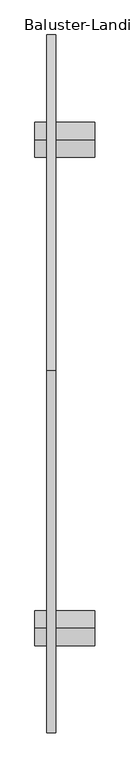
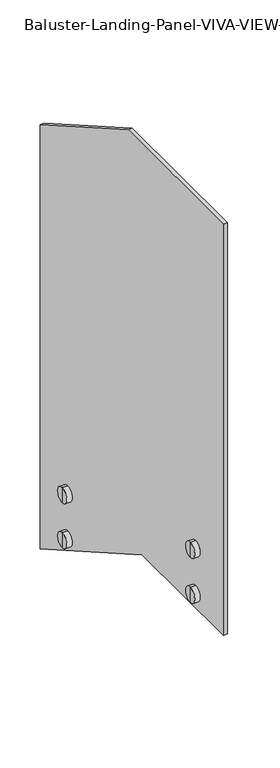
"""IFC4 building model written with IfcOpenShell, lengths in millimetres: railing geometry, Baluster-Landing-Panel-VIVA-VIEW-Lower : Standard_Glass."""

from ifc_helpers import new_model, si_unit, frame, origin, place, context, project, spatial, polyline, circle_curve, outline, extrude, source, transform, mapped, element, save
from ifc_brep_helpers import plane_surface, cylinder_surface, advanced_brep


def baluster_landing_panel_viva_view_lower_standard_glass_baf17fb6(model_context):
    return source(origin(), model_context, "Body", "SolidModel", [
        advanced_brep(
        [(15.875, -147.3891207, -546.0690625), (15.875, -147.3891207, -520.6690625), (15.875, -147.3891207, -495.2690625), (33.3375, -147.3891207, -546.0690625), (33.3375, -147.3891207, -495.2690625), (33.3375, -147.3891207, -526.3840625), (33.3375, -147.3891207, -514.9540625), (46.0375, -147.3891207, -526.3840625), (46.0375, -147.3891207, -514.9540625), (46.0375, -147.3891207, -546.0690625), (46.0375, -147.3891207, -495.2690625), (103.187353, -147.3891207, -546.0690625), (103.187353, -147.3891207, -495.2690625), (103.187353, -147.3891207, -520.6690625)],
        [
            (0, 1),
            (1, 2),
            (2, 0, circle_curve(frame((15.875, -147.3891207, -520.6690625), z_axis=(-1.0, 0.0, 0.0), x_axis=(0.0, 0.0, 1.0)), 25.4)),
            (0, 2, circle_curve(frame((15.875, -147.3891207, -520.6690625), z_axis=(-1.0, 0.0, 0.0), x_axis=(0.0, 0.0, 1.0)), 25.4)),
            (3, 0),
            (2, 4),
            (4, 3, circle_curve(frame((33.3375, -147.3891207, -520.6690625), z_axis=(-1.0, 0.0, 0.0), x_axis=(0.0, 0.0, 1.0)), 25.4)),
            (3, 4, circle_curve(frame((33.3375, -147.3891207, -520.6690625), z_axis=(-1.0, 0.0, 0.0), x_axis=(0.0, 0.0, 1.0)), 25.4)),
            (5, 3),
            (4, 6),
            (6, 5, circle_curve(frame((33.3375, -147.3891207, -520.6690625), z_axis=(-1.0, 0.0, 0.0), x_axis=(0.0, 0.0, 1.0)), 5.715)),
            (5, 6, circle_curve(frame((33.3375, -147.3891207, -520.6690625), z_axis=(-1.0, 0.0, 0.0), x_axis=(0.0, 0.0, 1.0)), 5.715)),
            (7, 5),
            (6, 8),
            (8, 7, circle_curve(frame((46.0375, -147.3891207, -520.6690625), z_axis=(-1.0, 0.0, 0.0), x_axis=(0.0, 0.0, 1.0)), 5.715)),
            (7, 8, circle_curve(frame((46.0375, -147.3891207, -520.6690625), z_axis=(-1.0, 0.0, 0.0), x_axis=(0.0, 0.0, 1.0)), 5.715)),
            (9, 7),
            (8, 10),
            (10, 9, circle_curve(frame((46.0375, -147.3891207, -520.6690625), z_axis=(-1.0, 0.0, 0.0), x_axis=(0.0, 0.0, 1.0)), 25.4)),
            (9, 10, circle_curve(frame((46.0375, -147.3891207, -520.6690625), z_axis=(-1.0, 0.0, 0.0), x_axis=(0.0, 0.0, 1.0)), 25.4)),
            (11, 9),
            (10, 12),
            (12, 11, circle_curve(frame((103.187353, -147.3891207, -520.6690625), z_axis=(-1.0, 0.0, 0.0), x_axis=(0.0, 0.0, 1.0)), 25.4)),
            (11, 12, circle_curve(frame((103.187353, -147.3891207, -520.6690625), z_axis=(-1.0, 0.0, 0.0), x_axis=(0.0, 0.0, 1.0)), 25.4)),
            (13, 11),
            (12, 13),
        ],
        [
            plane_surface(frame((15.875, -147.3891207, -520.6690625), z_axis=(-1.0, 0.0, 0.0), x_axis=(0.0, 0.0, 1.0))),
            cylinder_surface(frame((-52.387647, -147.3891207, -520.6690625), z_axis=(1.0, 0.0, 0.0), x_axis=(0.0, 0.0, 1.0)), 25.4),
            plane_surface(frame((33.3375, -147.3891207, -520.6690625), z_axis=(1.0, 0.0, 0.0), x_axis=(0.0, 0.0, 1.0))),
            cylinder_surface(frame((-52.387647, -147.3891207, -520.6690625), z_axis=(1.0, 0.0, 0.0), x_axis=(0.0, 0.0, 1.0)), 5.715),
            plane_surface(frame((46.0375, -147.3891207, -520.6690625), z_axis=(-1.0, 0.0, 0.0), x_axis=(0.0, 0.0, 1.0))),
            plane_surface(frame((103.187353, -147.3891207, -520.6690625), z_axis=(1.0, 0.0, 0.0), x_axis=(0.0, 0.0, 1.0))),
        ],
        [
            (0, [[1, 2, 3]]),
            (0, [[-2, -1, 4]]),
            (1, [[5, -3, 6, 7]]),
            (1, [[-6, -4, -5, 8]]),
            (2, [[9, -7, 10, 11]]),
            (2, [[-10, -8, -9, 12]]),
            (3, [[13, -11, 14, 15]]),
            (3, [[-14, -12, -13, 16]]),
            (4, [[17, -15, 18, 19]]),
            (4, [[-18, -16, -17, 20]]),
            (1, [[21, -19, 22, 23]]),
            (1, [[-22, -20, -21, 24]]),
            (5, [[25, -23, 26]]),
            (5, [[-26, -24, -25]]),
        ],
    ),
        advanced_brep(
        [(33.3375, -147.3891207, -373.9840625), (33.3375, -147.3891207, -393.6690625), (33.3375, -147.3891207, -342.8690625), (33.3375, -147.3891207, -362.5540625), (46.0375, -147.3891207, -373.9840625), (46.0375, -147.3891207, -362.5540625), (46.0375, -147.3891207, -393.6690625), (46.0375, -147.3891207, -342.8690625), (103.187353, -147.3891207, -393.6690625), (103.187353, -147.3891207, -342.8690625), (103.187353, -147.3891207, -368.2690625), (15.875, -147.3891207, -393.6690625), (15.875, -147.3891207, -368.2690625), (15.875, -147.3891207, -342.8690625)],
        [
            (0, 1),
            (1, 2, circle_curve(frame((33.3375, -147.3891207, -368.2690625), z_axis=(1.0, 0.0, 0.0), x_axis=(0.0, 0.0, 1.0)), 25.4)),
            (2, 3),
            (3, 0, circle_curve(frame((33.3375, -147.3891207, -368.2690625), z_axis=(-1.0, 0.0, 0.0), x_axis=(0.0, 0.0, 1.0)), 5.715)),
            (2, 1, circle_curve(frame((33.3375, -147.3891207, -368.2690625), z_axis=(1.0, 0.0, 0.0), x_axis=(0.0, 0.0, 1.0)), 25.4)),
            (0, 3, circle_curve(frame((33.3375, -147.3891207, -368.2690625), z_axis=(-1.0, 0.0, 0.0), x_axis=(0.0, 0.0, 1.0)), 5.715)),
            (4, 0),
            (3, 5),
            (5, 4, circle_curve(frame((46.0375, -147.3891207, -368.2690625), z_axis=(-1.0, 0.0, 0.0), x_axis=(0.0, 0.0, 1.0)), 5.715)),
            (4, 5, circle_curve(frame((46.0375, -147.3891207, -368.2690625), z_axis=(-1.0, 0.0, 0.0), x_axis=(0.0, 0.0, 1.0)), 5.715)),
            (6, 4),
            (5, 7),
            (7, 6, circle_curve(frame((46.0375, -147.3891207, -368.2690625), z_axis=(-1.0, 0.0, 0.0), x_axis=(0.0, 0.0, 1.0)), 25.4)),
            (6, 7, circle_curve(frame((46.0375, -147.3891207, -368.2690625), z_axis=(-1.0, 0.0, 0.0), x_axis=(0.0, 0.0, 1.0)), 25.4)),
            (8, 6),
            (7, 9),
            (9, 8, circle_curve(frame((103.187353, -147.3891207, -368.2690625), z_axis=(-1.0, 0.0, 0.0), x_axis=(0.0, 0.0, 1.0)), 25.4)),
            (8, 9, circle_curve(frame((103.187353, -147.3891207, -368.2690625), z_axis=(-1.0, 0.0, 0.0), x_axis=(0.0, 0.0, 1.0)), 25.4)),
            (10, 8),
            (9, 10),
            (11, 12),
            (12, 13),
            (13, 11, circle_curve(frame((15.875, -147.3891207, -368.2690625), z_axis=(-1.0, 0.0, 0.0), x_axis=(0.0, 0.0, 1.0)), 25.4)),
            (11, 13, circle_curve(frame((15.875, -147.3891207, -368.2690625), z_axis=(-1.0, 0.0, 0.0), x_axis=(0.0, 0.0, 1.0)), 25.4)),
            (1, 11),
            (13, 2),
        ],
        [
            plane_surface(frame((33.3375, -147.3891207, -368.2690625), z_axis=(1.0, 0.0, 0.0), x_axis=(0.0, 0.0, 1.0))),
            cylinder_surface(frame((-52.387647, -147.3891207, -368.2690625), z_axis=(1.0, 0.0, 0.0), x_axis=(0.0, 0.0, 1.0)), 5.715),
            plane_surface(frame((46.0375, -147.3891207, -368.2690625), z_axis=(-1.0, 0.0, 0.0), x_axis=(0.0, 0.0, 1.0))),
            cylinder_surface(frame((-52.387647, -147.3891207, -368.2690625), z_axis=(1.0, 0.0, 0.0), x_axis=(0.0, 0.0, 1.0)), 25.4),
            plane_surface(frame((103.187353, -147.3891207, -368.2690625), z_axis=(1.0, 0.0, 0.0), x_axis=(0.0, 0.0, 1.0))),
            plane_surface(frame((15.875, -147.3891207, -368.2690625), z_axis=(-1.0, 0.0, 0.0), x_axis=(0.0, 0.0, 1.0))),
        ],
        [
            (0, [[1, 2, 3, 4]]),
            (0, [[-3, 5, -1, 6]]),
            (1, [[7, -4, 8, 9]]),
            (1, [[-8, -6, -7, 10]]),
            (2, [[11, -9, 12, 13]]),
            (2, [[-12, -10, -11, 14]]),
            (3, [[15, -13, 16, 17]]),
            (3, [[-16, -14, -15, 18]]),
            (4, [[19, -17, 20]]),
            (4, [[-20, -18, -19]]),
            (5, [[21, 22, 23]]),
            (5, [[-22, -21, 24]]),
            (3, [[25, -23, 26, -2]]),
            (3, [[-26, -24, -25, -5]]),
        ],
    ),
        advanced_brep(
        [(15.875, -858.1688714, -300.2438244), (15.875, -858.1688714, -249.4438244), (15.875, -858.1688714, -274.8438244), (33.3375, -858.1688714, -300.2438244), (33.3375, -858.1688714, -249.4438244), (33.3375, -858.1688714, -280.5588244), (33.3375, -858.1688714, -269.1288244), (46.0375, -858.1688714, -280.5588244), (46.0375, -858.1688714, -269.1288244), (46.0375, -858.1688714, -300.2438244), (46.0375, -858.1688714, -249.4438244), (103.187353, -858.1688714, -300.2438244), (103.187353, -858.1688714, -249.4438244), (103.187353, -858.1688714, -274.8438244)],
        [
            (0, 1, circle_curve(frame((15.875, -858.1688714, -274.8438244), z_axis=(-1.0, 0.0, 0.0), x_axis=(0.0, 0.0, 1.0)), 25.4)),
            (1, 2),
            (2, 0),
            (1, 0, circle_curve(frame((15.875, -858.1688714, -274.8438244), z_axis=(-1.0, 0.0, 0.0), x_axis=(0.0, 0.0, 1.0)), 25.4)),
            (3, 4, circle_curve(frame((33.3375, -858.1688714, -274.8438244), z_axis=(-1.0, 0.0, 0.0), x_axis=(0.0, 0.0, 1.0)), 25.4)),
            (4, 1),
            (0, 3),
            (4, 3, circle_curve(frame((33.3375, -858.1688714, -274.8438244), z_axis=(-1.0, 0.0, 0.0), x_axis=(0.0, 0.0, 1.0)), 25.4)),
            (5, 6, circle_curve(frame((33.3375, -858.1688714, -274.8438244), z_axis=(-1.0, 0.0, 0.0), x_axis=(0.0, 0.0, 1.0)), 5.715)),
            (6, 4),
            (3, 5),
            (6, 5, circle_curve(frame((33.3375, -858.1688714, -274.8438244), z_axis=(-1.0, 0.0, 0.0), x_axis=(0.0, 0.0, 1.0)), 5.715)),
            (7, 8, circle_curve(frame((46.0375, -858.1688714, -274.8438244), z_axis=(-1.0, 0.0, 0.0), x_axis=(0.0, 0.0, 1.0)), 5.715)),
            (8, 6),
            (5, 7),
            (8, 7, circle_curve(frame((46.0375, -858.1688714, -274.8438244), z_axis=(-1.0, 0.0, 0.0), x_axis=(0.0, 0.0, 1.0)), 5.715)),
            (9, 10, circle_curve(frame((46.0375, -858.1688714, -274.8438244), z_axis=(-1.0, 0.0, 0.0), x_axis=(0.0, 0.0, 1.0)), 25.4)),
            (10, 8),
            (7, 9),
            (10, 9, circle_curve(frame((46.0375, -858.1688714, -274.8438244), z_axis=(-1.0, 0.0, 0.0), x_axis=(0.0, 0.0, 1.0)), 25.4)),
            (11, 12, circle_curve(frame((103.187353, -858.1688714, -274.8438244), z_axis=(-1.0, 0.0, 0.0), x_axis=(0.0, 0.0, 1.0)), 25.4)),
            (12, 10),
            (9, 11),
            (12, 11, circle_curve(frame((103.187353, -858.1688714, -274.8438244), z_axis=(-1.0, 0.0, 0.0), x_axis=(0.0, 0.0, 1.0)), 25.4)),
            (13, 12),
            (11, 13),
        ],
        [
            plane_surface(frame((15.875, -858.1688714, -274.8438244), z_axis=(-1.0, 0.0, 0.0), x_axis=(0.0, 0.0, 1.0))),
            cylinder_surface(frame((-52.387647, -858.1688714, -274.8438244), z_axis=(1.0, 0.0, 0.0), x_axis=(0.0, 0.0, 1.0)), 25.4),
            plane_surface(frame((33.3375, -858.1688714, -274.8438244), z_axis=(1.0, 0.0, 0.0), x_axis=(0.0, 0.0, 1.0))),
            cylinder_surface(frame((-52.387647, -858.1688714, -274.8438244), z_axis=(1.0, 0.0, 0.0), x_axis=(0.0, 0.0, 1.0)), 5.715),
            plane_surface(frame((46.0375, -858.1688714, -274.8438244), z_axis=(-1.0, 0.0, 0.0), x_axis=(0.0, 0.0, 1.0))),
            plane_surface(frame((103.187353, -858.1688714, -274.8438244), z_axis=(1.0, 0.0, 0.0), x_axis=(0.0, 0.0, 1.0))),
        ],
        [
            (0, [[1, 2, 3]]),
            (0, [[4, -3, -2]]),
            (1, [[5, 6, -1, 7]]),
            (1, [[8, -7, -4, -6]]),
            (2, [[9, 10, -5, 11]]),
            (2, [[12, -11, -8, -10]]),
            (3, [[13, 14, -9, 15]]),
            (3, [[16, -15, -12, -14]]),
            (4, [[17, 18, -13, 19]]),
            (4, [[20, -19, -16, -18]]),
            (1, [[21, 22, -17, 23]]),
            (1, [[24, -23, -20, -22]]),
            (5, [[25, -21, 26]]),
            (5, [[-26, -24, -25]]),
        ],
    ),
        advanced_brep(
        [(33.3375, -858.1688714, -128.1588244), (33.3375, -858.1688714, -116.7288244), (33.3375, -858.1688714, -97.0438244), (33.3375, -858.1688714, -147.8438244), (46.0375, -858.1688714, -128.1588244), (46.0375, -858.1688714, -116.7288244), (46.0375, -858.1688714, -147.8438244), (46.0375, -858.1688714, -97.0438244), (103.187353, -858.1688714, -147.8438244), (103.187353, -858.1688714, -97.0438244), (103.187353, -858.1688714, -122.4438244), (15.875, -858.1688714, -147.8438244), (15.875, -858.1688714, -97.0438244), (15.875, -858.1688714, -122.4438244)],
        [
            (0, 1, circle_curve(frame((33.3375, -858.1688714, -122.4438244), z_axis=(-1.0, 0.0, 0.0), x_axis=(0.0, 0.0, 1.0)), 5.715)),
            (1, 2),
            (2, 3, circle_curve(frame((33.3375, -858.1688714, -122.4438244), z_axis=(1.0, 0.0, 0.0), x_axis=(0.0, 0.0, 1.0)), 25.4)),
            (3, 0),
            (1, 0, circle_curve(frame((33.3375, -858.1688714, -122.4438244), z_axis=(-1.0, 0.0, 0.0), x_axis=(0.0, 0.0, 1.0)), 5.715)),
            (3, 2, circle_curve(frame((33.3375, -858.1688714, -122.4438244), z_axis=(1.0, 0.0, 0.0), x_axis=(0.0, 0.0, 1.0)), 25.4)),
            (4, 5, circle_curve(frame((46.0375, -858.1688714, -122.4438244), z_axis=(-1.0, 0.0, 0.0), x_axis=(0.0, 0.0, 1.0)), 5.715)),
            (5, 1),
            (0, 4),
            (5, 4, circle_curve(frame((46.0375, -858.1688714, -122.4438244), z_axis=(-1.0, 0.0, 0.0), x_axis=(0.0, 0.0, 1.0)), 5.715)),
            (6, 7, circle_curve(frame((46.0375, -858.1688714, -122.4438244), z_axis=(-1.0, 0.0, 0.0), x_axis=(0.0, 0.0, 1.0)), 25.4)),
            (7, 5),
            (4, 6),
            (7, 6, circle_curve(frame((46.0375, -858.1688714, -122.4438244), z_axis=(-1.0, 0.0, 0.0), x_axis=(0.0, 0.0, 1.0)), 25.4)),
            (8, 9, circle_curve(frame((103.187353, -858.1688714, -122.4438244), z_axis=(-1.0, 0.0, 0.0), x_axis=(0.0, 0.0, 1.0)), 25.4)),
            (9, 7),
            (6, 8),
            (9, 8, circle_curve(frame((103.187353, -858.1688714, -122.4438244), z_axis=(-1.0, 0.0, 0.0), x_axis=(0.0, 0.0, 1.0)), 25.4)),
            (10, 9),
            (8, 10),
            (11, 12, circle_curve(frame((15.875, -858.1688714, -122.4438244), z_axis=(-1.0, 0.0, 0.0), x_axis=(0.0, 0.0, 1.0)), 25.4)),
            (12, 13),
            (13, 11),
            (12, 11, circle_curve(frame((15.875, -858.1688714, -122.4438244), z_axis=(-1.0, 0.0, 0.0), x_axis=(0.0, 0.0, 1.0)), 25.4)),
            (2, 12),
            (11, 3),
        ],
        [
            plane_surface(frame((33.3375, -858.1688714, -122.4438244), z_axis=(1.0, 0.0, 0.0), x_axis=(0.0, 0.0, 1.0))),
            cylinder_surface(frame((-52.387647, -858.1688714, -122.4438244), z_axis=(1.0, 0.0, 0.0), x_axis=(0.0, 0.0, 1.0)), 5.715),
            plane_surface(frame((46.0375, -858.1688714, -122.4438244), z_axis=(-1.0, 0.0, 0.0), x_axis=(0.0, 0.0, 1.0))),
            cylinder_surface(frame((-52.387647, -858.1688714, -122.4438244), z_axis=(1.0, 0.0, 0.0), x_axis=(0.0, 0.0, 1.0)), 25.4),
            plane_surface(frame((103.187353, -858.1688714, -122.4438244), z_axis=(1.0, 0.0, 0.0), x_axis=(0.0, 0.0, 1.0))),
            plane_surface(frame((15.875, -858.1688714, -122.4438244), z_axis=(-1.0, 0.0, 0.0), x_axis=(0.0, 0.0, 1.0))),
        ],
        [
            (0, [[1, 2, 3, 4]]),
            (0, [[5, -4, 6, -2]]),
            (1, [[7, 8, -1, 9]]),
            (1, [[10, -9, -5, -8]]),
            (2, [[11, 12, -7, 13]]),
            (2, [[14, -13, -10, -12]]),
            (3, [[15, 16, -11, 17]]),
            (3, [[18, -17, -14, -16]]),
            (4, [[19, -15, 20]]),
            (4, [[-20, -18, -19]]),
            (5, [[21, 22, 23]]),
            (5, [[24, -23, -22]]),
            (3, [[-3, 25, -21, 26]]),
            (3, [[-6, -26, -24, -25]]),
        ],
    ),
        extrude(outline(polyline([(-483.5416293, 1066.8), (5.0108793, 787.6823482), (5.0108793, -649.0537444), (-561.0684305, -325.6438244), (-1010.5688714, -325.6438244), (-1010.5688714, 1066.8), (-483.5416293, 1066.8)])), frame((33.3375, 0.0, 0.0), z_axis=(1.0, 0.0, 0.0), x_axis=(0.0, 1.0, 0.0)), (0.0, 0.0, 1.0), 12.7),
    ])


if __name__ == "__main__":
    model = new_model("IFC4")
    model_context = context("Model", 3, world=origin())
    ifc_project = project(units=[si_unit("LENGTHUNIT", "METRE", prefix="MILLI")], contexts=[model_context])
    site = spatial("IfcSite", under=ifc_project)
    building = spatial("IfcBuilding", under=site)
    placement = place(None, origin())
    baluster_landing_panel_viva_view_lower_standard_glass_shape = baluster_landing_panel_viva_view_lower_standard_glass_baf17fb6(model_context)
    element("IfcRailing", 1, ObjectType="Baluster-Landing-Panel-VIVA-VIEW-Lower : Standard_Glass", at=placement, inside=building, context=model_context, shape_type="MappedRepresentation", body=[
        mapped(baluster_landing_panel_viva_view_lower_standard_glass_shape, transform((0.0, 0.0, 0.0), x_axis=(1.0, 0.0, 0.0), y_axis=(0.0, 1.0, 0.0), z_axis=(0.0, 0.0, 1.0))),
    ])
    save(model, "model.ifc")
